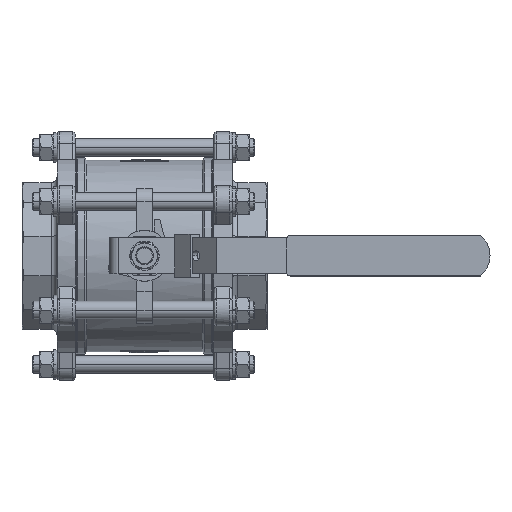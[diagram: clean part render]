
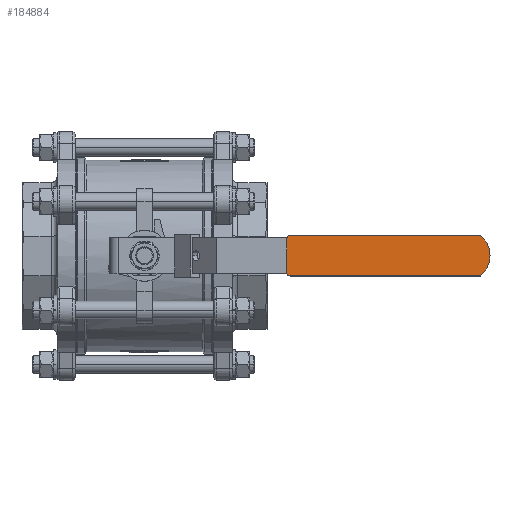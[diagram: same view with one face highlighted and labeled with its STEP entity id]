
A CAD part, top view. The second image highlights one B-rep face of the part: STEP entity #184884.
In plain terms, the highlighted planar face has unit normal (0, 0, 1).
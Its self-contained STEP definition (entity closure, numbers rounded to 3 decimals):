
#184392 = EDGE_CURVE('',#184393,#184395,#184397,.T.);
#184393 = VERTEX_POINT('',#184394);
#184394 = CARTESIAN_POINT('',(138.43,14.863,
    166.116));
#184395 = VERTEX_POINT('',#184396);
#184396 = CARTESIAN_POINT('',(141.43,17.863,
    166.116));
#184397 = SURFACE_CURVE('',#184398,(#184403,#184415),.PCURVE_S1.);
#184398 = CIRCLE('',#184399,3.);
#184399 = AXIS2_PLACEMENT_3D('',#184400,#184401,#184402);
#184400 = CARTESIAN_POINT('',(141.43,14.863,
    166.116));
#184401 = DIRECTION('',(0.,0.,-1.));
#184402 = DIRECTION('',(1.,0.,0.));
#184403 = PCURVE('',#184404,#184409);
#184404 = CYLINDRICAL_SURFACE('',#184405,3.);
#184405 = AXIS2_PLACEMENT_3D('',#184406,#184407,#184408);
#184406 = CARTESIAN_POINT('',(141.43,14.863,
    163.5));
#184407 = DIRECTION('',(0.,0.,1.));
#184408 = DIRECTION('',(1.,0.,-0.));
#184409 = DEFINITIONAL_REPRESENTATION('',(#184410),#184414);
#184410 = LINE('',#184411,#184412);
#184411 = CARTESIAN_POINT('',(6.283,2.616));
#184412 = VECTOR('',#184413,1.);
#184413 = DIRECTION('',(-1.,0.));
#184414 = ( GEOMETRIC_REPRESENTATION_CONTEXT(2) 
PARAMETRIC_REPRESENTATION_CONTEXT() REPRESENTATION_CONTEXT('2D SPACE',''
  ) );
#184415 = PCURVE('',#184416,#184421);
#184416 = PLANE('',#184417);
#184417 = AXIS2_PLACEMENT_3D('',#184418,#184419,#184420);
#184418 = CARTESIAN_POINT('',(226.339,-0.137,
    166.116));
#184419 = DIRECTION('',(0.,0.,1.));
#184420 = DIRECTION('',(1.,0.,-0.));
#184421 = DEFINITIONAL_REPRESENTATION('',(#184422),#184430);
#184422 = ( BOUNDED_CURVE() B_SPLINE_CURVE(2,(#184423,#184424,#184425,
    #184426,#184427,#184428,#184429),.UNSPECIFIED.,.T.,.F.) 
B_SPLINE_CURVE_WITH_KNOTS((1,2,2,2,2,1),(-2.094,0.,
    2.094,4.189,6.283,8.378),
.UNSPECIFIED.) CURVE() GEOMETRIC_REPRESENTATION_ITEM() 
RATIONAL_B_SPLINE_CURVE((1.,0.5,1.,0.5,1.,0.5,1.)) REPRESENTATION_ITEM(
  '') );
#184423 = CARTESIAN_POINT('',(-81.908,15.));
#184424 = CARTESIAN_POINT('',(-81.908,9.804));
#184425 = CARTESIAN_POINT('',(-86.408,12.402));
#184426 = CARTESIAN_POINT('',(-90.908,15.));
#184427 = CARTESIAN_POINT('',(-86.408,17.598));
#184428 = CARTESIAN_POINT('',(-81.908,20.196));
#184429 = CARTESIAN_POINT('',(-81.908,15.));
#184430 = ( GEOMETRIC_REPRESENTATION_CONTEXT(2) 
PARAMETRIC_REPRESENTATION_CONTEXT() REPRESENTATION_CONTEXT('2D SPACE',''
  ) );
#184448 = PLANE('',#184449);
#184449 = AXIS2_PLACEMENT_3D('',#184450,#184451,#184452);
#184450 = CARTESIAN_POINT('',(225.868,17.863,
    163.5));
#184451 = DIRECTION('',(0.,1.,0.));
#184452 = DIRECTION('',(-1.,0.,0.));
#184507 = PLANE('',#184508);
#184508 = AXIS2_PLACEMENT_3D('',#184509,#184510,#184511);
#184509 = CARTESIAN_POINT('',(138.43,-0.137,
    163.5));
#184510 = DIRECTION('',(-1.,0.,0.));
#184511 = DIRECTION('',(0.,-1.,0.));
#184522 = EDGE_CURVE('',#184395,#184523,#184525,.T.);
#184523 = VERTEX_POINT('',#184524);
#184524 = CARTESIAN_POINT('',(310.305,17.863,
    166.116));
#184525 = SURFACE_CURVE('',#184526,(#184530,#184537),.PCURVE_S1.);
#184526 = LINE('',#184527,#184528);
#184527 = CARTESIAN_POINT('',(141.43,17.863,
    166.116));
#184528 = VECTOR('',#184529,1.);
#184529 = DIRECTION('',(1.,0.,0.));
#184530 = PCURVE('',#184448,#184531);
#184531 = DEFINITIONAL_REPRESENTATION('',(#184532),#184536);
#184532 = LINE('',#184533,#184534);
#184533 = CARTESIAN_POINT('',(84.437,2.616));
#184534 = VECTOR('',#184535,1.);
#184535 = DIRECTION('',(-1.,0.));
#184536 = ( GEOMETRIC_REPRESENTATION_CONTEXT(2) 
PARAMETRIC_REPRESENTATION_CONTEXT() REPRESENTATION_CONTEXT('2D SPACE',''
  ) );
#184537 = PCURVE('',#184416,#184538);
#184538 = DEFINITIONAL_REPRESENTATION('',(#184539),#184543);
#184539 = LINE('',#184540,#184541);
#184540 = CARTESIAN_POINT('',(-84.908,18.));
#184541 = VECTOR('',#184542,1.);
#184542 = DIRECTION('',(1.,0.));
#184543 = ( GEOMETRIC_REPRESENTATION_CONTEXT(2) 
PARAMETRIC_REPRESENTATION_CONTEXT() REPRESENTATION_CONTEXT('2D SPACE',''
  ) );
#184561 = CYLINDRICAL_SURFACE('',#184562,24.);
#184562 = AXIS2_PLACEMENT_3D('',#184563,#184564,#184565);
#184563 = CARTESIAN_POINT('',(294.43,-0.137,
    163.5));
#184564 = DIRECTION('',(0.,0.,1.));
#184565 = DIRECTION('',(1.,0.,-0.));
#184598 = EDGE_CURVE('',#184523,#184599,#184601,.T.);
#184599 = VERTEX_POINT('',#184600);
#184600 = CARTESIAN_POINT('',(310.305,-18.137,
    166.116));
#184601 = SURFACE_CURVE('',#184602,(#184607,#184614),.PCURVE_S1.);
#184602 = CIRCLE('',#184603,24.);
#184603 = AXIS2_PLACEMENT_3D('',#184604,#184605,#184606);
#184604 = CARTESIAN_POINT('',(294.43,-0.137,
    166.116));
#184605 = DIRECTION('',(0.,0.,-1.));
#184606 = DIRECTION('',(1.,0.,0.));
#184607 = PCURVE('',#184561,#184608);
#184608 = DEFINITIONAL_REPRESENTATION('',(#184609),#184613);
#184609 = LINE('',#184610,#184611);
#184610 = CARTESIAN_POINT('',(12.566,2.616));
#184611 = VECTOR('',#184612,1.);
#184612 = DIRECTION('',(-1.,0.));
#184613 = ( GEOMETRIC_REPRESENTATION_CONTEXT(2) 
PARAMETRIC_REPRESENTATION_CONTEXT() REPRESENTATION_CONTEXT('2D SPACE',''
  ) );
#184614 = PCURVE('',#184416,#184615);
#184615 = DEFINITIONAL_REPRESENTATION('',(#184616),#184624);
#184616 = ( BOUNDED_CURVE() B_SPLINE_CURVE(2,(#184617,#184618,#184619,
    #184620,#184621,#184622,#184623),.UNSPECIFIED.,.T.,.F.) 
B_SPLINE_CURVE_WITH_KNOTS((1,2,2,2,2,1),(-2.094,0.,
    2.094,4.189,6.283,8.378),
.UNSPECIFIED.) CURVE() GEOMETRIC_REPRESENTATION_ITEM() 
RATIONAL_B_SPLINE_CURVE((1.,0.5,1.,0.5,1.,0.5,1.)) REPRESENTATION_ITEM(
  '') );
#184617 = CARTESIAN_POINT('',(92.092,0.));
#184618 = CARTESIAN_POINT('',(92.092,-41.569));
#184619 = CARTESIAN_POINT('',(56.092,-20.785));
#184620 = CARTESIAN_POINT('',(20.092,0.));
#184621 = CARTESIAN_POINT('',(56.092,20.785));
#184622 = CARTESIAN_POINT('',(92.092,41.569));
#184623 = CARTESIAN_POINT('',(92.092,0.));
#184624 = ( GEOMETRIC_REPRESENTATION_CONTEXT(2) 
PARAMETRIC_REPRESENTATION_CONTEXT() REPRESENTATION_CONTEXT('2D SPACE',''
  ) );
#184642 = PLANE('',#184643);
#184643 = AXIS2_PLACEMENT_3D('',#184644,#184645,#184646);
#184644 = CARTESIAN_POINT('',(225.868,-18.137,
    163.5));
#184645 = DIRECTION('',(0.,-1.,0.));
#184646 = DIRECTION('',(1.,0.,0.));
#184684 = EDGE_CURVE('',#184599,#184685,#184687,.T.);
#184685 = VERTEX_POINT('',#184686);
#184686 = CARTESIAN_POINT('',(141.43,-18.137,
    166.116));
#184687 = SURFACE_CURVE('',#184688,(#184692,#184699),.PCURVE_S1.);
#184688 = LINE('',#184689,#184690);
#184689 = CARTESIAN_POINT('',(310.305,-18.137,
    166.116));
#184690 = VECTOR('',#184691,1.);
#184691 = DIRECTION('',(-1.,0.,0.));
#184692 = PCURVE('',#184642,#184693);
#184693 = DEFINITIONAL_REPRESENTATION('',(#184694),#184698);
#184694 = LINE('',#184695,#184696);
#184695 = CARTESIAN_POINT('',(84.437,2.616));
#184696 = VECTOR('',#184697,1.);
#184697 = DIRECTION('',(-1.,0.));
#184698 = ( GEOMETRIC_REPRESENTATION_CONTEXT(2) 
PARAMETRIC_REPRESENTATION_CONTEXT() REPRESENTATION_CONTEXT('2D SPACE',''
  ) );
#184699 = PCURVE('',#184416,#184700);
#184700 = DEFINITIONAL_REPRESENTATION('',(#184701),#184705);
#184701 = LINE('',#184702,#184703);
#184702 = CARTESIAN_POINT('',(83.966,-18.));
#184703 = VECTOR('',#184704,1.);
#184704 = DIRECTION('',(-1.,0.));
#184705 = ( GEOMETRIC_REPRESENTATION_CONTEXT(2) 
PARAMETRIC_REPRESENTATION_CONTEXT() REPRESENTATION_CONTEXT('2D SPACE',''
  ) );
#184723 = CYLINDRICAL_SURFACE('',#184724,3.);
#184724 = AXIS2_PLACEMENT_3D('',#184725,#184726,#184727);
#184725 = CARTESIAN_POINT('',(141.43,-15.137,
    163.5));
#184726 = DIRECTION('',(0.,0.,1.));
#184727 = DIRECTION('',(1.,0.,-0.));
#184760 = EDGE_CURVE('',#184685,#184761,#184763,.T.);
#184761 = VERTEX_POINT('',#184762);
#184762 = CARTESIAN_POINT('',(138.43,-15.137,
    166.116));
#184763 = SURFACE_CURVE('',#184764,(#184769,#184776),.PCURVE_S1.);
#184764 = CIRCLE('',#184765,3.);
#184765 = AXIS2_PLACEMENT_3D('',#184766,#184767,#184768);
#184766 = CARTESIAN_POINT('',(141.43,-15.137,
    166.116));
#184767 = DIRECTION('',(0.,0.,-1.));
#184768 = DIRECTION('',(1.,0.,0.));
#184769 = PCURVE('',#184723,#184770);
#184770 = DEFINITIONAL_REPRESENTATION('',(#184771),#184775);
#184771 = LINE('',#184772,#184773);
#184772 = CARTESIAN_POINT('',(6.283,2.616));
#184773 = VECTOR('',#184774,1.);
#184774 = DIRECTION('',(-1.,0.));
#184775 = ( GEOMETRIC_REPRESENTATION_CONTEXT(2) 
PARAMETRIC_REPRESENTATION_CONTEXT() REPRESENTATION_CONTEXT('2D SPACE',''
  ) );
#184776 = PCURVE('',#184416,#184777);
#184777 = DEFINITIONAL_REPRESENTATION('',(#184778),#184786);
#184778 = ( BOUNDED_CURVE() B_SPLINE_CURVE(2,(#184779,#184780,#184781,
    #184782,#184783,#184784,#184785),.UNSPECIFIED.,.T.,.F.) 
B_SPLINE_CURVE_WITH_KNOTS((1,2,2,2,2,1),(-2.094,0.,
    2.094,4.189,6.283,8.378),
.UNSPECIFIED.) CURVE() GEOMETRIC_REPRESENTATION_ITEM() 
RATIONAL_B_SPLINE_CURVE((1.,0.5,1.,0.5,1.,0.5,1.)) REPRESENTATION_ITEM(
  '') );
#184779 = CARTESIAN_POINT('',(-81.908,-15.));
#184780 = CARTESIAN_POINT('',(-81.908,-20.196));
#184781 = CARTESIAN_POINT('',(-86.408,-17.598));
#184782 = CARTESIAN_POINT('',(-90.908,-15.));
#184783 = CARTESIAN_POINT('',(-86.408,-12.402));
#184784 = CARTESIAN_POINT('',(-81.908,-9.804));
#184785 = CARTESIAN_POINT('',(-81.908,-15.));
#184786 = ( GEOMETRIC_REPRESENTATION_CONTEXT(2) 
PARAMETRIC_REPRESENTATION_CONTEXT() REPRESENTATION_CONTEXT('2D SPACE',''
  ) );
#184841 = EDGE_CURVE('',#184761,#184393,#184842,.T.);
#184842 = SURFACE_CURVE('',#184843,(#184847,#184854),.PCURVE_S1.);
#184843 = LINE('',#184844,#184845);
#184844 = CARTESIAN_POINT('',(138.43,-15.137,
    166.116));
#184845 = VECTOR('',#184846,1.);
#184846 = DIRECTION('',(0.,1.,0.));
#184847 = PCURVE('',#184507,#184848);
#184848 = DEFINITIONAL_REPRESENTATION('',(#184849),#184853);
#184849 = LINE('',#184850,#184851);
#184850 = CARTESIAN_POINT('',(15.,2.616));
#184851 = VECTOR('',#184852,1.);
#184852 = DIRECTION('',(-1.,0.));
#184853 = ( GEOMETRIC_REPRESENTATION_CONTEXT(2) 
PARAMETRIC_REPRESENTATION_CONTEXT() REPRESENTATION_CONTEXT('2D SPACE',''
  ) );
#184854 = PCURVE('',#184416,#184855);
#184855 = DEFINITIONAL_REPRESENTATION('',(#184856),#184860);
#184856 = LINE('',#184857,#184858);
#184857 = CARTESIAN_POINT('',(-87.908,-15.));
#184858 = VECTOR('',#184859,1.);
#184859 = DIRECTION('',(0.,1.));
#184860 = ( GEOMETRIC_REPRESENTATION_CONTEXT(2) 
PARAMETRIC_REPRESENTATION_CONTEXT() REPRESENTATION_CONTEXT('2D SPACE',''
  ) );
#184884 = ADVANCED_FACE('',(#184885),#184416,.T.);
#184885 = FACE_BOUND('',#184886,.T.);
#184886 = EDGE_LOOP('',(#184887,#184888,#184889,#184890,#184891,#184892)
  );
#184887 = ORIENTED_EDGE('',*,*,#184392,.F.);
#184888 = ORIENTED_EDGE('',*,*,#184841,.F.);
#184889 = ORIENTED_EDGE('',*,*,#184760,.F.);
#184890 = ORIENTED_EDGE('',*,*,#184684,.F.);
#184891 = ORIENTED_EDGE('',*,*,#184598,.F.);
#184892 = ORIENTED_EDGE('',*,*,#184522,.F.);
